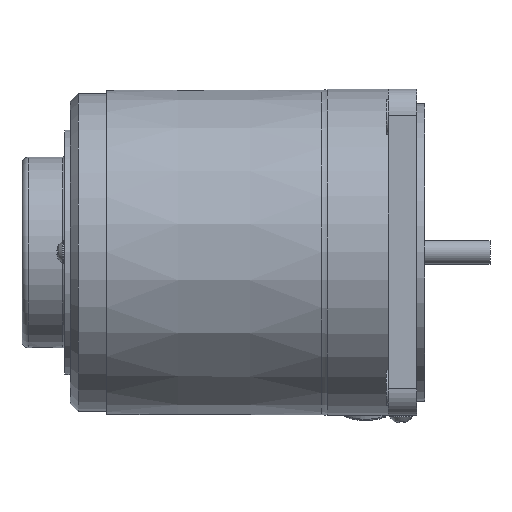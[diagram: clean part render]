
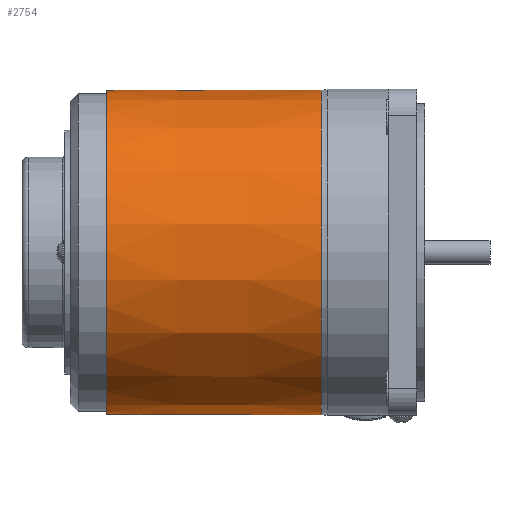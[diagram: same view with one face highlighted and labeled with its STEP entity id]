
A CAD part, top view. The second image highlights one B-rep face of the part: STEP entity #2754.
In plain terms, the highlighted conical face has half-angle 0.073 degrees and reference radius 39.784 mm.
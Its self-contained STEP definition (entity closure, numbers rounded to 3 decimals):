
#19=CONICAL_SURFACE('',#2991,39.784,0.073);
#605=FACE_BOUND('',#931,.T.);
#729=FACE_OUTER_BOUND('',#930,.T.);
#930=EDGE_LOOP('',(#2155));
#931=EDGE_LOOP('',(#2156));
#1106=CIRCLE('',#2990,39.75);
#1107=CIRCLE('',#2992,39.817);
#1299=VERTEX_POINT('',#4485);
#1300=VERTEX_POINT('',#4488);
#1609=EDGE_CURVE('',#1299,#1299,#1106,.T.);
#1610=EDGE_CURVE('',#1300,#1300,#1107,.T.);
#2155=ORIENTED_EDGE('',*,*,#1610,.F.);
#2156=ORIENTED_EDGE('',*,*,#1609,.T.);
#2754=ADVANCED_FACE('',(#729,#605),#19,.T.);
#2990=AXIS2_PLACEMENT_3D('',#4486,#3529,#3530);
#2991=AXIS2_PLACEMENT_3D('',#4487,#3531,#3532);
#2992=AXIS2_PLACEMENT_3D('',#4489,#3533,#3534);
#3529=DIRECTION('center_axis',(1.,0.,0.));
#3530=DIRECTION('ref_axis',(0.,1.,0.));
#3531=DIRECTION('center_axis',(1.,0.,0.));
#3532=DIRECTION('ref_axis',(0.,1.,0.));
#3533=DIRECTION('center_axis',(1.,0.,0.));
#3534=DIRECTION('ref_axis',(0.,1.,0.));
#4485=CARTESIAN_POINT('',(9.,39.75,0.));
#4486=CARTESIAN_POINT('Origin',(9.,0.,0.));
#4487=CARTESIAN_POINT('Origin',(35.288,0.,0.));
#4488=CARTESIAN_POINT('',(61.576,39.817,0.));
#4489=CARTESIAN_POINT('Origin',(61.576,0.,0.));
